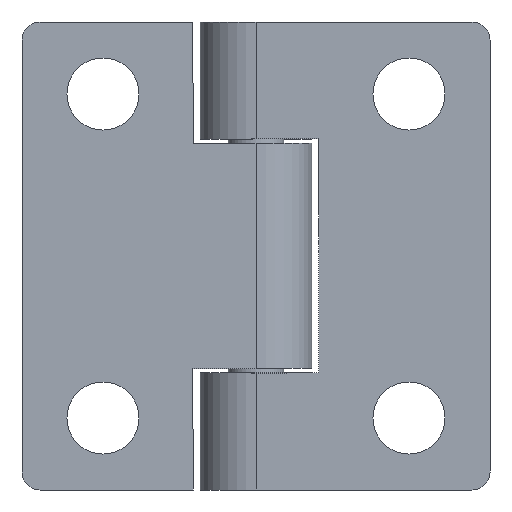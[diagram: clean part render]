
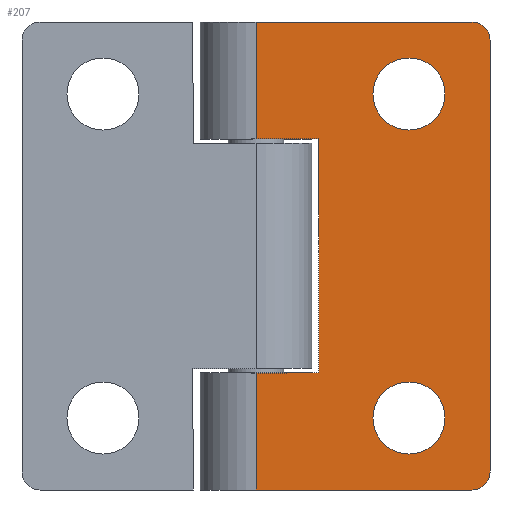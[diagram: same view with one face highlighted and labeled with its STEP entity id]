
A CAD part, front view. The second image highlights one B-rep face of the part: STEP entity #207.
In plain terms, the highlighted planar face has unit normal (0, -1, 0).
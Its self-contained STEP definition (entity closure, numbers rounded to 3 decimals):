
#28 = ORIENTED_EDGE ( 'NONE', *, *, #790, .F. ) ;
#45 = ORIENTED_EDGE ( 'NONE', *, *, #750, .F. ) ;
#57 = LINE ( 'NONE', #1580, #448 ) ;
#58 = CARTESIAN_POINT ( 'NONE',  ( 8.5, 0., 11. ) ) ;
#61 = EDGE_CURVE ( 'NONE', #1510, #1319, #645, .T. ) ;
#70 = CARTESIAN_POINT ( 'NONE',  ( 3.5, 0., -6.5 ) ) ;
#79 = DIRECTION ( 'NONE',  ( 1., 0., 0. ) ) ;
#93 = CARTESIAN_POINT ( 'NONE',  ( 0., 0., -13. ) ) ;
#102 = DIRECTION ( 'NONE',  ( 0., -1., 0. ) ) ;
#103 = AXIS2_PLACEMENT_3D ( 'NONE', #1193, #621, #1598 ) ;
#109 = VERTEX_POINT ( 'NONE', #622 ) ;
#110 = CARTESIAN_POINT ( 'NONE',  ( 0., 0., -13. ) ) ;
#138 = VERTEX_POINT ( 'NONE', #1305 ) ;
#147 = EDGE_CURVE ( 'NONE', #406, #346, #1680, .T. ) ;
#154 = CARTESIAN_POINT ( 'NONE',  ( 12., 0., 13. ) ) ;
#183 = AXIS2_PLACEMENT_3D ( 'NONE', #832, #102, #375 ) ;
#185 = CIRCLE ( 'NONE', #103, 2. ) ;
#190 = VERTEX_POINT ( 'NONE', #1327 ) ;
#203 = CARTESIAN_POINT ( 'NONE',  ( 0., 0., -13. ) ) ;
#207 = ADVANCED_FACE ( 'NONE', ( #1512, #1484, #1497 ), #268, .T. ) ;
#212 = VECTOR ( 'NONE', #235, 1000. ) ;
#220 = ORIENTED_EDGE ( 'NONE', *, *, #1667, .F. ) ;
#231 = LINE ( 'NONE', #1077, #592 ) ;
#235 = DIRECTION ( 'NONE',  ( 1., 0., 0. ) ) ;
#241 = CIRCLE ( 'NONE', #1487, 2. ) ;
#242 = DIRECTION ( 'NONE',  ( 1., 0., 0. ) ) ;
#247 = VECTOR ( 'NONE', #242, 1000. ) ;
#268 = PLANE ( 'NONE',  #183 ) ;
#271 = AXIS2_PLACEMENT_3D ( 'NONE', #1041, #1567, #79 ) ;
#273 = DIRECTION ( 'NONE',  ( 1., 0., 0. ) ) ;
#287 = CARTESIAN_POINT ( 'NONE',  ( 13., 0., -13. ) ) ;
#338 = EDGE_LOOP ( 'NONE', ( #1261, #531 ) ) ;
#339 = CARTESIAN_POINT ( 'NONE',  ( 3.5, 0., 6.5 ) ) ;
#346 = VERTEX_POINT ( 'NONE', #154 ) ;
#367 = CARTESIAN_POINT ( 'NONE',  ( 0., 0., -6.5 ) ) ;
#375 = DIRECTION ( 'NONE',  ( 1., 0., 0. ) ) ;
#406 = VERTEX_POINT ( 'NONE', #1151 ) ;
#440 = ORIENTED_EDGE ( 'NONE', *, *, #1397, .T. ) ;
#448 = VECTOR ( 'NONE', #1709, 1000. ) ;
#488 = DIRECTION ( 'NONE',  ( 1., 0., 0. ) ) ;
#495 = LINE ( 'NONE', #339, #1423 ) ;
#519 = ORIENTED_EDGE ( 'NONE', *, *, #767, .F. ) ;
#521 = LINE ( 'NONE', #110, #247 ) ;
#531 = ORIENTED_EDGE ( 'NONE', *, *, #1583, .F. ) ;
#552 = ORIENTED_EDGE ( 'NONE', *, *, #147, .T. ) ;
#569 = VERTEX_POINT ( 'NONE', #58 ) ;
#592 = VECTOR ( 'NONE', #953, 1000. ) ;
#602 = DIRECTION ( 'NONE',  ( 0., -1., 0. ) ) ;
#621 = DIRECTION ( 'NONE',  ( 0., -1., 0. ) ) ;
#622 = CARTESIAN_POINT ( 'NONE',  ( 13., 0., -12. ) ) ;
#630 = CARTESIAN_POINT ( 'NONE',  ( 12., 0., 12. ) ) ;
#633 = CARTESIAN_POINT ( 'NONE',  ( 8.5, 0., -9. ) ) ;
#640 = AXIS2_PLACEMENT_3D ( 'NONE', #630, #602, #488 ) ;
#645 = LINE ( 'NONE', #1207, #1653 ) ;
#656 = ORIENTED_EDGE ( 'NONE', *, *, #1165, .F. ) ;
#657 = VERTEX_POINT ( 'NONE', #1275 ) ;
#695 = VERTEX_POINT ( 'NONE', #70 ) ;
#699 = CARTESIAN_POINT ( 'NONE',  ( 3.5, 0., 6.5 ) ) ;
#727 = LINE ( 'NONE', #203, #1202 ) ;
#750 = EDGE_CURVE ( 'NONE', #695, #1510, #495, .T. ) ;
#762 = AXIS2_PLACEMENT_3D ( 'NONE', #633, #961, #273 ) ;
#767 = EDGE_CURVE ( 'NONE', #1333, #138, #57, .T. ) ;
#790 = EDGE_CURVE ( 'NONE', #138, #695, #1064, .T. ) ;
#813 = CARTESIAN_POINT ( 'NONE',  ( 0., 0., 6.5 ) ) ;
#832 = CARTESIAN_POINT ( 'NONE',  ( 0., 0., -13. ) ) ;
#851 = DIRECTION ( 'NONE',  ( 0., 0., 1. ) ) ;
#868 = CARTESIAN_POINT ( 'NONE',  ( 8.5, 0., 7. ) ) ;
#874 = CIRCLE ( 'NONE', #271, 1. ) ;
#897 = EDGE_LOOP ( 'NONE', ( #952, #1009, #440, #552, #656, #924, #1182, #45, #28, #519 ) ) ;
#907 = CIRCLE ( 'NONE', #762, 2. ) ;
#908 = EDGE_CURVE ( 'NONE', #569, #1081, #241, .T. ) ;
#924 = ORIENTED_EDGE ( 'NONE', *, *, #1125, .F. ) ;
#941 = CIRCLE ( 'NONE', #1242, 2. ) ;
#952 = ORIENTED_EDGE ( 'NONE', *, *, #1741, .T. ) ;
#953 = DIRECTION ( 'NONE',  ( 1., 0., 0. ) ) ;
#961 = DIRECTION ( 'NONE',  ( 0., -1., 0. ) ) ;
#981 = DIRECTION ( 'NONE',  ( 1., 0., 0. ) ) ;
#987 = LINE ( 'NONE', #287, #1089 ) ;
#1009 = ORIENTED_EDGE ( 'NONE', *, *, #1565, .T. ) ;
#1016 = VERTEX_POINT ( 'NONE', #1564 ) ;
#1041 = CARTESIAN_POINT ( 'NONE',  ( 12., 0., -12. ) ) ;
#1064 = LINE ( 'NONE', #367, #212 ) ;
#1068 = DIRECTION ( 'NONE',  ( -1., 0., 0. ) ) ;
#1077 = CARTESIAN_POINT ( 'NONE',  ( 0., 0., 13. ) ) ;
#1081 = VERTEX_POINT ( 'NONE', #868 ) ;
#1089 = VECTOR ( 'NONE', #851, 1000. ) ;
#1105 = DIRECTION ( 'NONE',  ( 0., -1., 0. ) ) ;
#1125 = EDGE_CURVE ( 'NONE', #1319, #1016, #727, .T. ) ;
#1139 = DIRECTION ( 'NONE',  ( 0., 0., 1. ) ) ;
#1151 = CARTESIAN_POINT ( 'NONE',  ( 13., 0., 12. ) ) ;
#1165 = EDGE_CURVE ( 'NONE', #1016, #346, #231, .T. ) ;
#1179 = CARTESIAN_POINT ( 'NONE',  ( 8.5, 0., 9. ) ) ;
#1182 = ORIENTED_EDGE ( 'NONE', *, *, #61, .F. ) ;
#1193 = CARTESIAN_POINT ( 'NONE',  ( 8.5, 0., -9. ) ) ;
#1202 = VECTOR ( 'NONE', #1139, 1000. ) ;
#1207 = CARTESIAN_POINT ( 'NONE',  ( -3.1, 0., 6.5 ) ) ;
#1227 = VERTEX_POINT ( 'NONE', #1346 ) ;
#1242 = AXIS2_PLACEMENT_3D ( 'NONE', #1179, #1314, #1577 ) ;
#1261 = ORIENTED_EDGE ( 'NONE', *, *, #908, .F. ) ;
#1275 = CARTESIAN_POINT ( 'NONE',  ( 8.5, 0., -7. ) ) ;
#1305 = CARTESIAN_POINT ( 'NONE',  ( 0., 0., -6.5 ) ) ;
#1314 = DIRECTION ( 'NONE',  ( 0., -1., 0. ) ) ;
#1319 = VERTEX_POINT ( 'NONE', #813 ) ;
#1327 = CARTESIAN_POINT ( 'NONE',  ( 12., 0., -13. ) ) ;
#1333 = VERTEX_POINT ( 'NONE', #93 ) ;
#1341 = EDGE_CURVE ( 'NONE', #657, #1227, #907, .T. ) ;
#1346 = CARTESIAN_POINT ( 'NONE',  ( 8.5, 0., -11. ) ) ;
#1397 = EDGE_CURVE ( 'NONE', #109, #406, #987, .T. ) ;
#1423 = VECTOR ( 'NONE', #1590, 1000. ) ;
#1484 = FACE_BOUND ( 'NONE', #338, .T. ) ;
#1487 = AXIS2_PLACEMENT_3D ( 'NONE', #1541, #1105, #981 ) ;
#1497 = FACE_OUTER_BOUND ( 'NONE', #897, .T. ) ;
#1510 = VERTEX_POINT ( 'NONE', #699 ) ;
#1512 = FACE_BOUND ( 'NONE', #1783, .T. ) ;
#1541 = CARTESIAN_POINT ( 'NONE',  ( 8.5, 0., 9. ) ) ;
#1564 = CARTESIAN_POINT ( 'NONE',  ( 0., 0., 13. ) ) ;
#1565 = EDGE_CURVE ( 'NONE', #190, #109, #874, .T. ) ;
#1567 = DIRECTION ( 'NONE',  ( 0., -1., 0. ) ) ;
#1569 = ORIENTED_EDGE ( 'NONE', *, *, #1341, .F. ) ;
#1577 = DIRECTION ( 'NONE',  ( 1., 0., 0. ) ) ;
#1580 = CARTESIAN_POINT ( 'NONE',  ( 0., 0., -13. ) ) ;
#1583 = EDGE_CURVE ( 'NONE', #1081, #569, #941, .T. ) ;
#1590 = DIRECTION ( 'NONE',  ( 0., 0., 1. ) ) ;
#1598 = DIRECTION ( 'NONE',  ( 1., 0., 0. ) ) ;
#1653 = VECTOR ( 'NONE', #1068, 1000. ) ;
#1667 = EDGE_CURVE ( 'NONE', #1227, #657, #185, .T. ) ;
#1680 = CIRCLE ( 'NONE', #640, 1. ) ;
#1709 = DIRECTION ( 'NONE',  ( 0., 0., 1. ) ) ;
#1741 = EDGE_CURVE ( 'NONE', #1333, #190, #521, .T. ) ;
#1783 = EDGE_LOOP ( 'NONE', ( #1569, #220 ) ) ;
